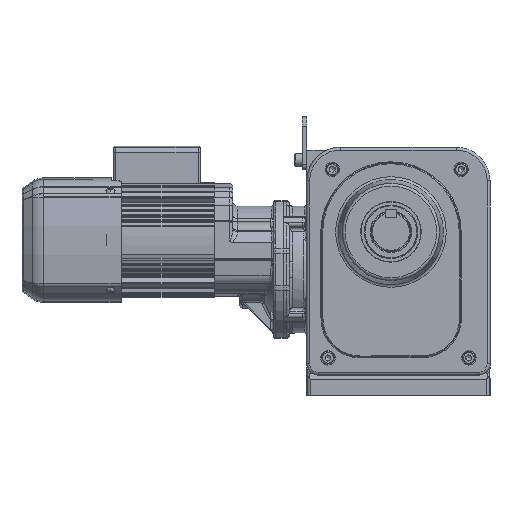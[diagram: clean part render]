
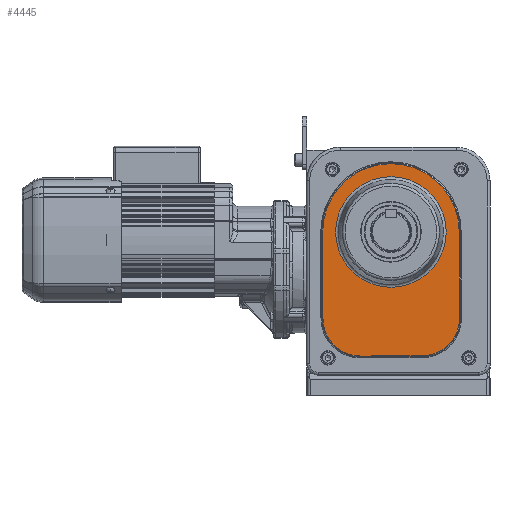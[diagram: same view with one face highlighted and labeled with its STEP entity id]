
A CAD part, front view. The second image highlights one B-rep face of the part: STEP entity #4445.
In plain terms, the highlighted planar face has unit normal (0, -1, 0).
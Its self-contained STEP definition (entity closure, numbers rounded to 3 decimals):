
#4445 = ADVANCED_FACE( '', ( #9330, #9331 ), #9332, .F. );
#9330 = FACE_BOUND( '', #22250, .T. );
#9331 = FACE_OUTER_BOUND( '', #22251, .T. );
#9332 = PLANE( '', #22252 );
#22250 = EDGE_LOOP( '', ( #36491 ) );
#22251 = EDGE_LOOP( '', ( #36492, #36493, #36494, #36495, #36496, #36497 ) );
#22252 = AXIS2_PLACEMENT_3D( '', #36498, #36499, #36500 );
#36491 = ORIENTED_EDGE( '', *, *, #41786, .T. );
#36492 = ORIENTED_EDGE( '', *, *, #42673, .T. );
#36493 = ORIENTED_EDGE( '', *, *, #38747, .T. );
#36494 = ORIENTED_EDGE( '', *, *, #38752, .T. );
#36495 = ORIENTED_EDGE( '', *, *, #43317, .T. );
#36496 = ORIENTED_EDGE( '', *, *, #40059, .T. );
#36497 = ORIENTED_EDGE( '', *, *, #38557, .T. );
#36498 = CARTESIAN_POINT( '', ( -100.114, -169.5, 18.487 ) );
#36499 = DIRECTION( '', ( 0., 1., 0. ) );
#36500 = DIRECTION( '', ( 0., 0., -1. ) );
#38557 = EDGE_CURVE( '', #44161, #44166, #44168, .F. );
#38747 = EDGE_CURVE( '', #44505, #44503, #44506, .F. );
#38752 = EDGE_CURVE( '', #44503, #44512, #44514, .F. );
#40059 = EDGE_CURVE( '', #46703, #44161, #46704, .F. );
#41786 = EDGE_CURVE( '', #49315, #49315, #49316, .T. );
#42673 = EDGE_CURVE( '', #44166, #44505, #50443, .F. );
#43317 = EDGE_CURVE( '', #44512, #46703, #51161, .F. );
#44161 = VERTEX_POINT( '', #52477 );
#44166 = VERTEX_POINT( '', #52482 );
#44168 = CIRCLE( '', #52484, 39. );
#44503 = VERTEX_POINT( '', #53095 );
#44505 = VERTEX_POINT( '', #53097 );
#44506 = CIRCLE( '', #53098, 39. );
#44512 = VERTEX_POINT( '', #53104 );
#44514 = LINE( '', #53106, #53107 );
#46703 = VERTEX_POINT( '', #57497 );
#46704 = LINE( '', #57498, #57499 );
#49315 = VERTEX_POINT( '', #62582 );
#49316 = CIRCLE( '', #62583, 57.517 );
#50443 = LINE( '', #65422, #65423 );
#51161 = CIRCLE( '', #66964, 71. );
#52477 = CARTESIAN_POINT( '', ( -170.829, -169.5, -71.628 ) );
#52482 = CARTESIAN_POINT( '', ( -131.705, -169.5, -110.504 ) );
#52484 = AXIS2_PLACEMENT_3D( '', #68090, #68091, #68092 );
#53095 = CARTESIAN_POINT( '', ( -28.829, -169.5, -71.177 ) );
#53097 = CARTESIAN_POINT( '', ( -67.705, -169.5, -110.301 ) );
#53098 = AXIS2_PLACEMENT_3D( '', #68379, #68380, #68381 );
#53104 = CARTESIAN_POINT( '', ( -29.114, -169.5, 18.713 ) );
#53106 = CARTESIAN_POINT( '', ( -29.114, -169.5, 18.713 ) );
#53107 = VECTOR( '', #68391, 1000. );
#57497 = CARTESIAN_POINT( '', ( -171.114, -169.5, 18.262 ) );
#57498 = CARTESIAN_POINT( '', ( -170.829, -169.5, -71.628 ) );
#57499 = VECTOR( '', #70133, 1000. );
#62582 = CARTESIAN_POINT( '', ( -100.114, -169.5, -39.03 ) );
#62583 = AXIS2_PLACEMENT_3D( '', #72762, #72763, #72764 );
#65422 = CARTESIAN_POINT( '', ( -67.705, -169.5, -110.301 ) );
#65423 = VECTOR( '', #73779, 1000. );
#66964 = AXIS2_PLACEMENT_3D( '', #74336, #74337, #74338 );
#68090 = CARTESIAN_POINT( '', ( -131.829, -169.5, -71.504 ) );
#68091 = DIRECTION( '', ( 0., 1., 0. ) );
#68092 = DIRECTION( '', ( 0., 0., -1. ) );
#68379 = CARTESIAN_POINT( '', ( -67.829, -169.5, -71.301 ) );
#68380 = DIRECTION( '', ( 0., 1., 0. ) );
#68381 = DIRECTION( '', ( 0., 0., -1. ) );
#68391 = DIRECTION( '', ( 0.003, 0., -1. ) );
#70133 = DIRECTION( '', ( -0.003, 0., 1. ) );
#72762 = CARTESIAN_POINT( '', ( -100.114, -169.5, 18.487 ) );
#72763 = DIRECTION( '', ( 0., 1., 0. ) );
#72764 = DIRECTION( '', ( 0., 0., -1. ) );
#73779 = DIRECTION( '', ( -1., 0., -0.003 ) );
#74336 = CARTESIAN_POINT( '', ( -100.114, -169.5, 18.487 ) );
#74337 = DIRECTION( '', ( 0., 1., 0. ) );
#74338 = DIRECTION( '', ( 0., 0., -1. ) );
